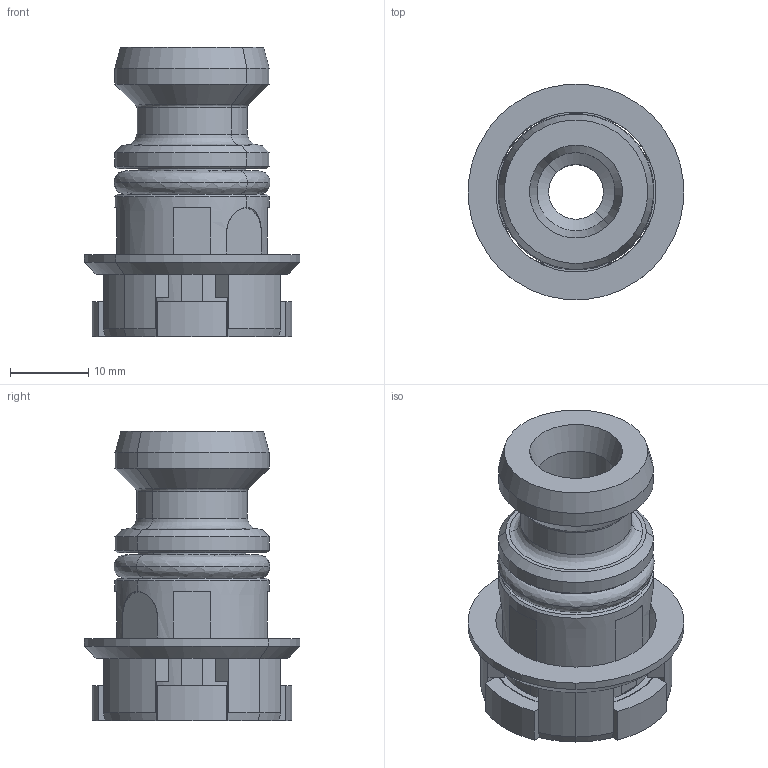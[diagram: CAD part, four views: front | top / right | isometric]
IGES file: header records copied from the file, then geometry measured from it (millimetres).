
Start section: 3D InterOp IGES (v. 2020 1.0.0), Spatial Corp. Copyright (c) 1999-2017.
Global section: file name: cctmp_E8508494-29B3-4688-B816-9B5F5C933D59_2022_11_08_08_22_58_0012_14016..igs; native system: Spatial Corp.; preprocessor: 3D InterOp ACIS/IGES; author: Meusburger Georg GmbH & Co KG; organization: CADClick - www.CADClick.com; date: 20221108.082258; units: millimetre
Bounding box: 27.5 x 27.5 x 37 mm (x, y, z)
Surface area: 6325.7 mm2 (no closed solid volume)
Topology: 0 solids, 0 shells, 153 faces, 804 edges, 804 vertices
Faces by surface type: revolution 82, extrusion 71
